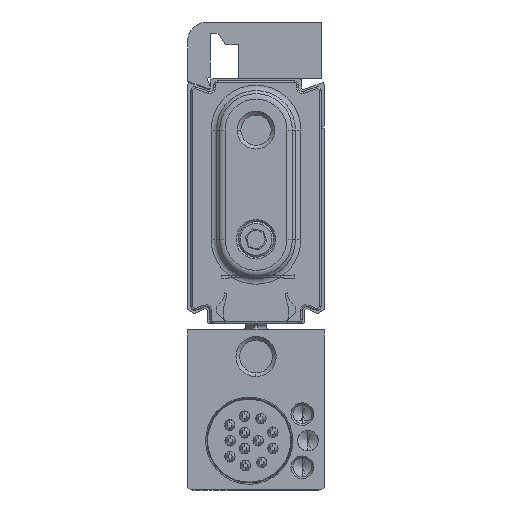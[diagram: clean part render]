
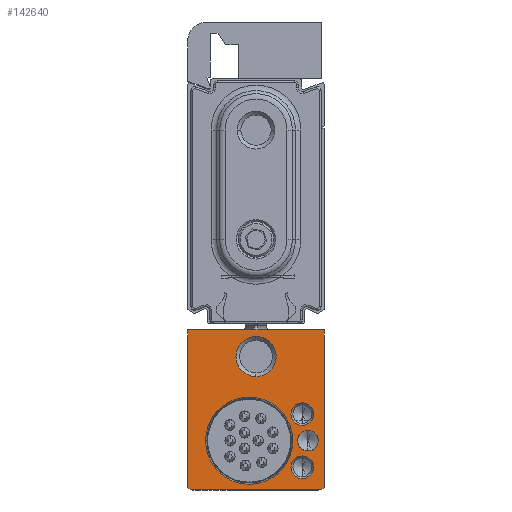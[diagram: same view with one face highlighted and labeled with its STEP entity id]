
A CAD part, left-side view. The second image highlights one B-rep face of the part: STEP entity #142640.
In plain terms, the highlighted planar face has unit normal (-1, 0, 0) as drawn and (0, 0, 1) by its records, which use the part's own axes.
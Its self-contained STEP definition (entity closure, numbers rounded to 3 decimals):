
#129250=CARTESIAN_POINT('',(-8.372,-16.475,
1.));
#129260=VERTEX_POINT('',#129250);
#129360=CARTESIAN_POINT('',(-8.372,-19.225,
1.));
#129370=VERTEX_POINT('',#129360);
#129400=CARTESIAN_POINT('',(-8.372,-17.85,
1.));
#129410=DIRECTION('',(0.,0.,-1.));
#129420=DIRECTION('',(0.,1.,0.));
#129430=AXIS2_PLACEMENT_3D('',#129400,#129410,#129420);
#129440=CIRCLE('',#129430,1.375);
#129450=EDGE_CURVE('',#129370,#129260,#129440,.T.);
#130360=CARTESIAN_POINT('',(-6.372,-17.1,
1.));
#130370=VERTEX_POINT('',#130360);
#130400=CARTESIAN_POINT('',(-4.872,-17.1,
1.));
#130410=DIRECTION('',(0.,0.,-1.));
#130420=DIRECTION('',(-1.,0.,0.));
#130430=AXIS2_PLACEMENT_3D('',#130400,#130410,#130420);
#130440=CIRCLE('',#130430,1.5);
#130450=CARTESIAN_POINT('',(-3.372,-17.1,
1.));
#130460=VERTEX_POINT('',#130450);
#130470=EDGE_CURVE('',#130370,#130460,#130440,.T.);
#131510=CARTESIAN_POINT('',(-13.372,-17.1,
1.));
#131520=VERTEX_POINT('',#131510);
#131550=CARTESIAN_POINT('',(-11.872,-17.1,
1.));
#131560=DIRECTION('',(0.,0.,-1.));
#131570=DIRECTION('',(-1.,0.,0.));
#131580=AXIS2_PLACEMENT_3D('',#131550,#131560,#131570);
#131590=CIRCLE('',#131580,1.5);
#131600=CARTESIAN_POINT('',(-10.372,-17.1,
1.));
#131610=VERTEX_POINT('',#131600);
#131620=EDGE_CURVE('',#131520,#131610,#131590,.T.);
#138300=CARTESIAN_POINT('',(6.228,-20.,
1.));
#138310=VERTEX_POINT('',#138300);
#138340=CARTESIAN_POINT('',(6.228,0.,
1.));
#138350=DIRECTION('',(0.,1.,0.));
#138360=VECTOR('',#138350,1.);
#138370=LINE('',#138340,#138360);
#138380=CARTESIAN_POINT('',(6.228,-2.,
1.));
#138390=VERTEX_POINT('',#138380);
#138400=EDGE_CURVE('',#138310,#138390,#138370,.T.);
#141690=CARTESIAN_POINT('',(-14.772,-2.,
1.));
#141700=DIRECTION('',(0.,0.,1.));
#141710=DIRECTION('',(-1.,0.,0.));
#141720=AXIS2_PLACEMENT_3D('',#141690,#141700,#141710);
#141730=PLANE('',#141720);
#141740=ORIENTED_EDGE('',*,*,#130470,.T.);
#141750=EDGE_CURVE('',#130460,#130370,#130440,.T.);
#141760=ORIENTED_EDGE('',*,*,#141750,.T.);
#141770=EDGE_LOOP('',(#141760,#141740));
#141780=FACE_BOUND('',#141770,.T.);
#141790=EDGE_CURVE('',#131610,#131520,#131590,.T.);
#141800=ORIENTED_EDGE('',*,*,#141790,.T.);
#141810=ORIENTED_EDGE('',*,*,#131620,.T.);
#141820=EDGE_LOOP('',(#141810,#141800));
#141830=FACE_BOUND('',#141820,.T.);
#141840=EDGE_CURVE('',#129260,#129370,#129440,.T.);
#141850=ORIENTED_EDGE('',*,*,#141840,.T.);
#141860=ORIENTED_EDGE('',*,*,#129450,.T.);
#141870=EDGE_LOOP('',(#141860,#141850));
#141880=FACE_BOUND('',#141870,.T.);
#141890=CARTESIAN_POINT('',(-8.372,-10.1,
1.));
#141900=DIRECTION('',(0.,0.,1.));
#141910=DIRECTION('',(1.,0.,0.));
#141920=AXIS2_PLACEMENT_3D('',#141890,#141900,#141910);
#141930=CIRCLE('',#141920,5.748);
#141940=CARTESIAN_POINT('',(-2.624,-10.1,
1.));
#141950=VERTEX_POINT('',#141940);
#141960=CARTESIAN_POINT('',(-14.12,-10.1,
1.));
#141970=VERTEX_POINT('',#141960);
#141980=EDGE_CURVE('',#141950,#141970,#141930,.T.);
#141990=ORIENTED_EDGE('',*,*,#141980,.F.);
#142000=EDGE_CURVE('',#141970,#141950,#141930,.T.);
#142010=ORIENTED_EDGE('',*,*,#142000,.F.);
#142020=EDGE_LOOP('',(#142010,#141990));
#142030=FACE_BOUND('',#142020,.T.);
#142040=CARTESIAN_POINT('',(2.728,-11.,
1.));
#142050=DIRECTION('',(0.,0.,1.));
#142060=DIRECTION('',(1.,0.,0.));
#142070=AXIS2_PLACEMENT_3D('',#142040,#142050,#142060);
#142080=CIRCLE('',#142070,2.65);
#142090=CARTESIAN_POINT('',(2.728,-8.35,
1.));
#142100=VERTEX_POINT('',#142090);
#142110=CARTESIAN_POINT('',(0.078,-11.,
1.));
#142120=VERTEX_POINT('',#142110);
#142130=EDGE_CURVE('',#142100,#142120,#142080,.T.);
#142140=ORIENTED_EDGE('',*,*,#142130,.F.);
#142150=CARTESIAN_POINT('',(5.378,-11.,
1.));
#142160=VERTEX_POINT('',#142150);
#142170=EDGE_CURVE('',#142120,#142160,#142080,.T.);
#142180=ORIENTED_EDGE('',*,*,#142170,.F.);
#142190=EDGE_CURVE('',#142160,#142100,#142080,.T.);
#142200=ORIENTED_EDGE('',*,*,#142190,.F.);
#142210=EDGE_LOOP('',(#142200,#142180,#142140));
#142220=FACE_BOUND('',#142210,.T.);
#142230=ORIENTED_EDGE('',*,*,#138400,.T.);
#142240=CARTESIAN_POINT('',(0.,-20.,
1.));
#142250=DIRECTION('',(1.,0.,0.));
#142260=VECTOR('',#142250,1.);
#142270=LINE('',#142240,#142260);
#142280=CARTESIAN_POINT('',(-14.572,-20.,
1.));
#142290=VERTEX_POINT('',#142280);
#142300=EDGE_CURVE('',#142290,#138310,#142270,.T.);
#142310=ORIENTED_EDGE('',*,*,#142300,.T.);
#142320=CARTESIAN_POINT('',(-34.572,0.,
1.));
#142330=DIRECTION('',(-0.707,0.707,0.));
#142340=VECTOR('',#142330,1.);
#142350=LINE('',#142320,#142340);
#142360=CARTESIAN_POINT('',(-14.872,-19.7,
1.));
#142370=VERTEX_POINT('',#142360);
#142380=EDGE_CURVE('',#142290,#142370,#142350,.T.);
#142390=ORIENTED_EDGE('',*,*,#142380,.F.);
#142400=CARTESIAN_POINT('',(-14.872,0.,
1.));
#142410=DIRECTION('',(0.,1.,0.));
#142420=VECTOR('',#142410,1.);
#142430=LINE('',#142400,#142420);
#142440=CARTESIAN_POINT('',(-14.872,-2.3,
1.));
#142450=VERTEX_POINT('',#142440);
#142460=EDGE_CURVE('',#142370,#142450,#142430,.T.);
#142470=ORIENTED_EDGE('',*,*,#142460,.F.);
#142480=CARTESIAN_POINT('',(-12.572,0.,
1.));
#142490=DIRECTION('',(0.707,0.707,0.));
#142500=VECTOR('',#142490,1.);
#142510=LINE('',#142480,#142500);
#142520=CARTESIAN_POINT('',(-14.572,-2.,
1.));
#142530=VERTEX_POINT('',#142520);
#142540=EDGE_CURVE('',#142450,#142530,#142510,.T.);
#142550=ORIENTED_EDGE('',*,*,#142540,.F.);
#142560=CARTESIAN_POINT('',(0.,-2.,
1.));
#142570=DIRECTION('',(-1.,0.,0.));
#142580=VECTOR('',#142570,1.);
#142590=LINE('',#142560,#142580);
#142600=EDGE_CURVE('',#138390,#142530,#142590,.T.);
#142610=ORIENTED_EDGE('',*,*,#142600,.T.);
#142620=EDGE_LOOP('',(#142610,#142550,#142470,#142390,#142310,#142230));
#142630=FACE_OUTER_BOUND('',#142620,.T.);
#142640=ADVANCED_FACE('',(#141780,#141830,#141880,#142030,#142220,
#142630),#141730,.T.);
